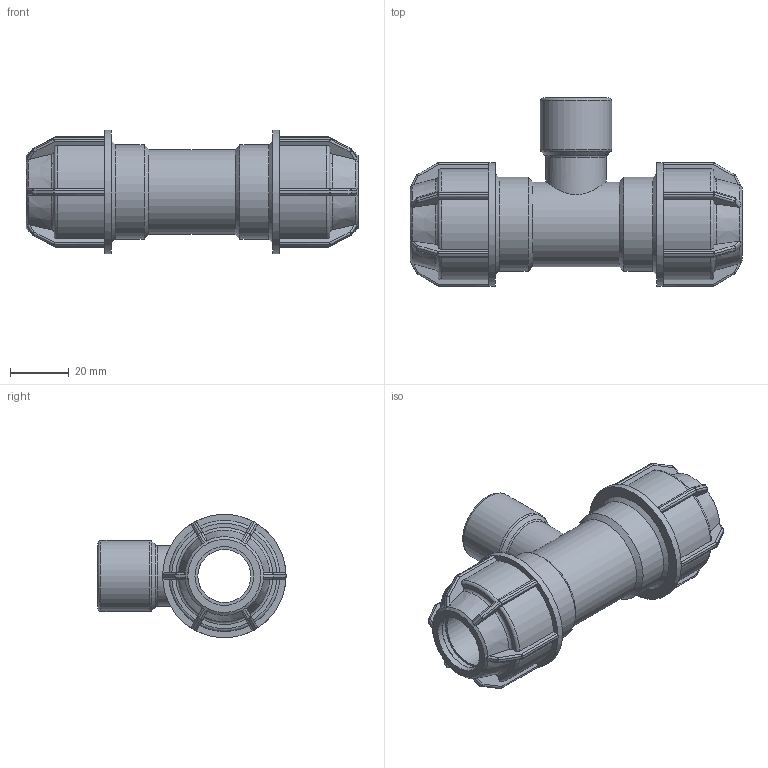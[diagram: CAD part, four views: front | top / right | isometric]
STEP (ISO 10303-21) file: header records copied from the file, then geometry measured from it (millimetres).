
FILE_DESCRIPTION(/* description */ ('PLASSON L.14 TEE FEMALE ADAPTOR (SILVER) 20 x 1/2" x 20'),/* implementation_level */ '2;1');
FILE_NAME(/* name */ 'C:\Dropbox\KIMPROJECTS-Inventor\99-16-3568-Processing\Silver Fittings\141400\141400020005.ipt.stp',/* time_stamp */ '2018-04-16T11:15:45+03:00',/* author */ ('KIM'),/* organization */ (''),/* preprocessor_version */ 'ST-DEVELOPER v15.6',/* originating_system */ 'Autodesk Inventor 2015',/* authorisation */ '');
FILE_SCHEMA (('AUTOMOTIVE_DESIGN { 1 0 10303 214 3 1 1 }'));
Length unit declared in the file: millimetre
Products named in the file (1): 141400020005
Bounding box: 113 x 64 x 42 mm (x, y, z)
Volume: 68495.1 mm3; surface area: 26845.9 mm2
Topology: 1 solids, 1 shells, 415 faces, 995 edges, 570 vertices
Faces by surface type: plane 195, cylinder 122, sphere 48, torus 31, cone 19
Full cylindrical faces by diameter (mm): 16 x1, 18 x1, 18.631 x1, 20 x4, 20.587 x1, 24.22 x1, 28.8 x1, 32 x2, 42 x2
Entity records: 12016 total; most frequent: CARTESIAN_POINT 3121, DIRECTION 1872, ORIENTED_EDGE 1822, EDGE_CURVE 911, AXIS2_PLACEMENT_3D 756, VERTEX_POINT 539, EDGE_LOOP 450, FACE_OUTER_BOUND 410
